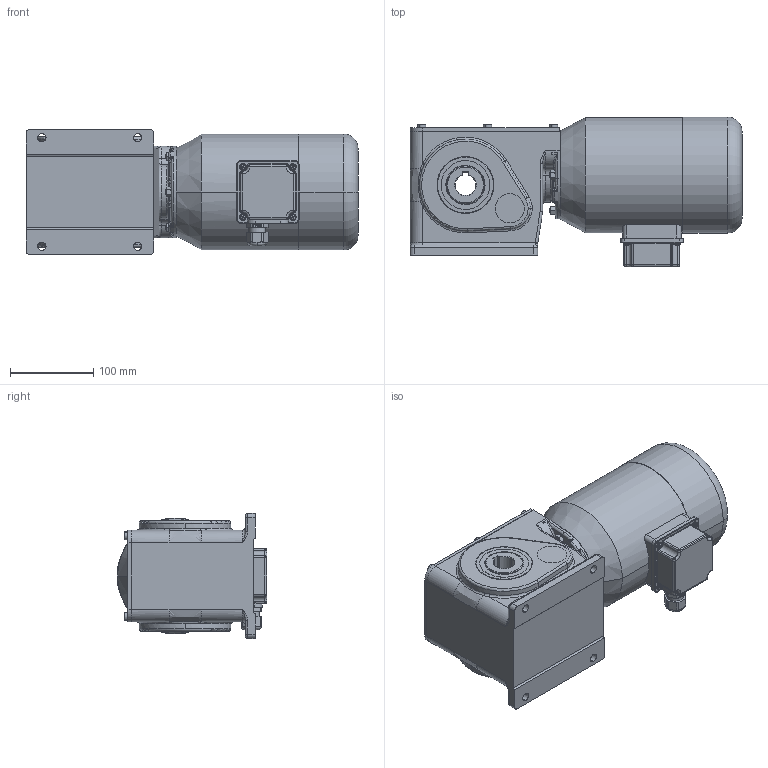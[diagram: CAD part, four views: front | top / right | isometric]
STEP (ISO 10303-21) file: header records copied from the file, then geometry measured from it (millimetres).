
FILE_DESCRIPTION (( 'STEP AP214' ), '1' );
FILE_NAME ('SN19H_250W_1400Upm_Drehstrom_Motor_C.STEP', '2022-08-10T07:49:42', ( '' ), ( '' ), 'SwSTEP 2.0', 'SolidWorks 2021', '' );
FILE_SCHEMA (( 'AUTOMOTIVE_DESIGN' ));
Length unit declared in the file: millimetre
Products named in the file (12): 19H-W-001_3D-Export; 09-M-230 I 250W_1400Upm; hex nut style 1 gradeab_iso_ISO - 4032 - M6 - D - C; K_35x8.0; DIN6912 - M6x16; socket set screw cup point_iso_ISO 4029 - M6 x 25-C; NBR_WDR_45x68x10; SN19H_250W_1400Upm_Drehstrom_Motor_C; 19-D-002; socket head cap screw_iso_ISO 4762 M6 x 25 - 25C; SN19H_3D-Export_Welle 1; 19-G-002_3D-Export
Assembly tree (22 placements, depth 3):
  SN19H_250W_1400Upm_Drehstrom_Motor_C
    SN19H_3D-Export_Welle 1
      19-G-002_3D-Export
      19-D-002
      19H-W-001_3D-Export
      K_35x8.0  x2
      NBR_WDR_45x68x10  x2
      DIN6912 - M6x16  x6
      socket head cap screw_iso_ISO 4762 M6 x 25 - 25C
      socket set screw cup point_iso_ISO 4029 - M6 x 25-C  x3
      hex nut style 1 gradeab_iso_ISO - 4032 - M6 - D - C  x3
    09-M-230 I 250W_1400Upm
Bounding box: 398 x 179.5 x 150 mm (x, y, z)
Volume: 6251974.9 mm3; surface area: 433115.2 mm2
Topology: 23 solids, 23 shells, 1197 faces, 2934 edges, 1800 vertices
Faces by surface type: cylinder 369, plane 344, cone 208, torus 166, bspline 86, sphere 24
Entity records: 32921 total; most frequent: CARTESIAN_POINT 9027, DIRECTION 5034, ORIENTED_EDGE 4806, EDGE_CURVE 2403, AXIS2_PLACEMENT_3D 2058, VERTEX_POINT 1511, CIRCLE 1146, EDGE_LOOP 1064
